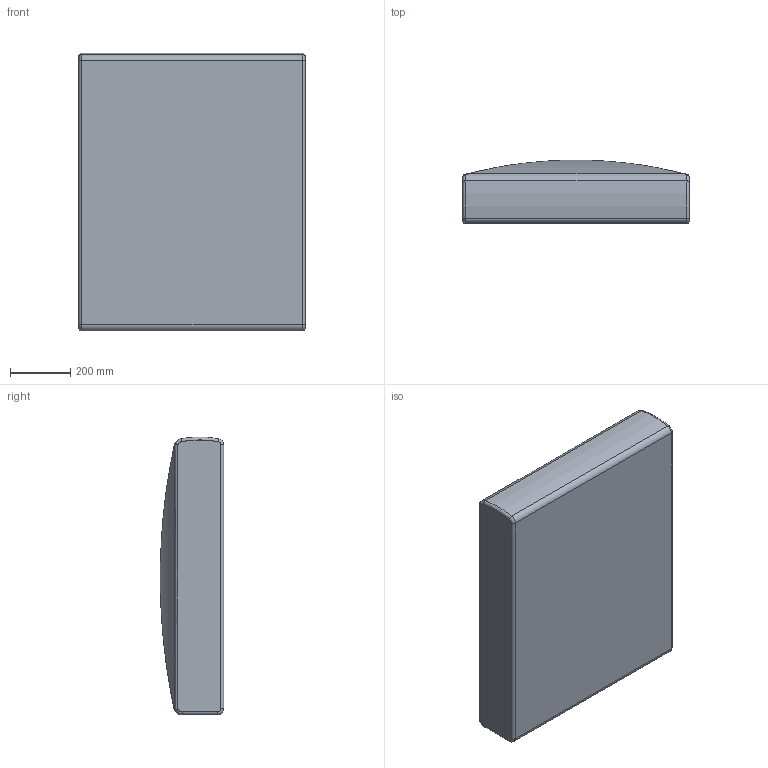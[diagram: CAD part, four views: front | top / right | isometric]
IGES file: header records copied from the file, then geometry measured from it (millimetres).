
Start section: SolidWorks IGES file using analytic representation for surfaces
Global section: file name: \\Logicserver\datos\01-VICCARBE\PRODUCTOS\53-SISTEMA\04-MODELADOS (PLANOS)\WEB\viccarbe-sistema-3D\Modulos\Modulo sin resp fino.IGS; native system: SolidWorks 2013; preprocessor: SolidWorks 2013; author: bdisenyo; date: 170120.111812; units: millimetre
Bounding box: 750 x 210 x 919.44 mm (x, y, z)
Surface area: 1875430.3 mm2 (no closed solid volume)
Topology: 0 solids, 0 shells, 37 faces, 338 edges, 334 vertices
Faces by surface type: bspline 20, revolution 17
